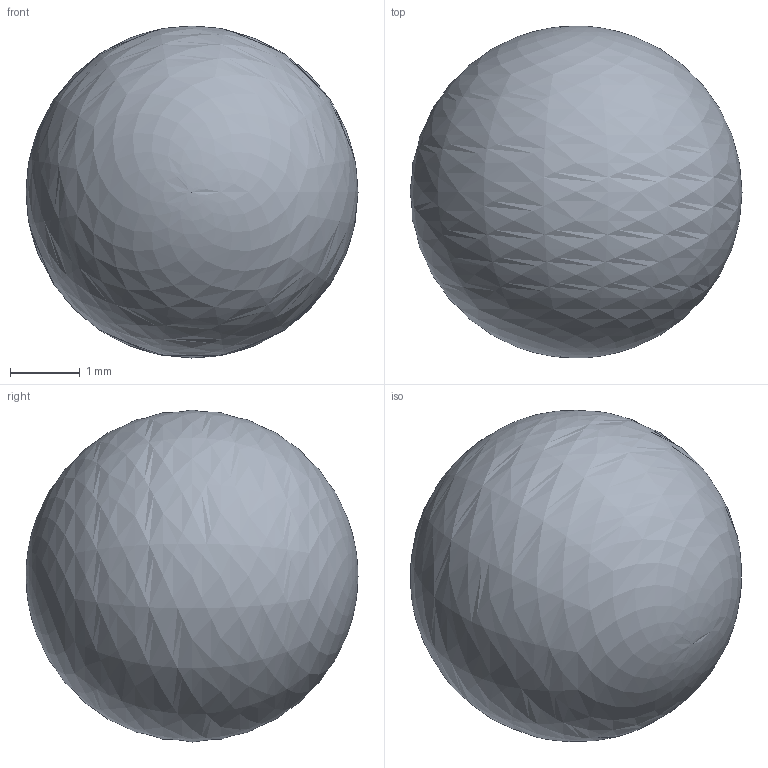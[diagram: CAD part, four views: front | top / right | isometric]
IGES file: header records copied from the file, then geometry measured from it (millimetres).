
Start section: SolidWorks IGES file using analytic representation for surfaces
Global section: file name: D:\Solid_parts\MECHeDESIGN\Bal-Tec\Catalog 105-A\Distribution\IGES\187-B.IGS; native system: SolidWorks 2005 by SolidWorks Corporation; preprocessor: SolidWorks 2005 by SolidWorks Corporation; author: rvillegas; date: 061204.225159; units: inch
Bounding box: 4.76 x 4.76 x 4.76 mm (x, y, z)
Surface area: 142.5 mm2 (no closed solid volume)
Topology: 0 solids, 0 shells, 2 faces, 6 edges, 4 vertices
Faces by surface type: revolution 2
